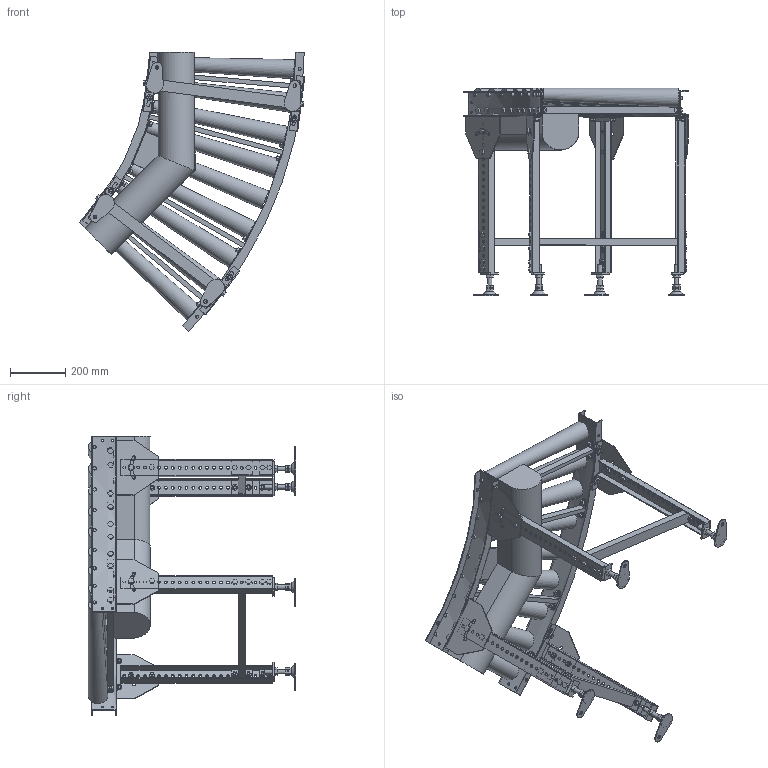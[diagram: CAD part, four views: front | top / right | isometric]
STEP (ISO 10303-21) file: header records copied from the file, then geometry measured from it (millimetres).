
FILE_DESCRIPTION( (''), '2;1');
FILE_NAME ('WEB-MCD-50-500-100-45°-C9.stp','2026-02-20T12:15:02',(''),(''),'spGate 20.6.2 (****-****-****-****)','','');
FILE_SCHEMA (('AUTOMOTIVE_DESIGN'));
Length unit declared in the file: millimetre
Products named in the file (31): WEB-MCD-50-500-100-45_-C9; TEMP_X_T-prt0; TEMP_X_T-prt1; TEMP_X_T-prt2; TEMP_X_T-prt3; TEMP_X_T-prt4; TEMP_X_T-prt5; TEMP_X_T-prt6; TEMP_X_T-prt7; TEMP_X_T-prt8; TEMP_X_T-prt9; TEMP_X_T-prt10; TEMP_X_T-prt11; TEMP_X_T-prt12; TEMP_X_T-prt13; TEMP_X_T-prt14; TEMP_X_T-prt15; TEMP_X_T-prt16; TEMP_X_T-prt17; TEMP_X_T-prt18; TEMP_X_T-prt19; TEMP_X_T-prt20; TEMP_X_T-prt21; TEMP_X_T-prt22; TEMP_X_T-prt23; TEMP_X_T-prt24; TEMP_X_T-prt25; TEMP_X_T-prt26; TEMP_X_T-prt27; TEMP_X_T-prt28; TEMP_X_T-prt29
Assembly tree (30 placements, depth 2):
  WEB-MCD-50-500-100-45_-C9
    TEMP_X_T-prt0
    TEMP_X_T-prt1
    TEMP_X_T-prt2
    TEMP_X_T-prt3
    TEMP_X_T-prt4
    TEMP_X_T-prt5
    TEMP_X_T-prt6
    TEMP_X_T-prt7
    TEMP_X_T-prt8
    TEMP_X_T-prt9
    TEMP_X_T-prt10
    TEMP_X_T-prt11
    TEMP_X_T-prt12
    TEMP_X_T-prt13
    TEMP_X_T-prt14
    TEMP_X_T-prt15
    TEMP_X_T-prt16
    TEMP_X_T-prt17
    TEMP_X_T-prt18
    TEMP_X_T-prt19
    TEMP_X_T-prt20
    TEMP_X_T-prt21
    TEMP_X_T-prt22
    TEMP_X_T-prt23
    TEMP_X_T-prt24
    TEMP_X_T-prt25
    TEMP_X_T-prt26
    TEMP_X_T-prt27
    TEMP_X_T-prt28
    TEMP_X_T-prt29
Bounding box: 817 x 750.06 x 1011.16 mm (x, y, z)
Volume: 28817822.3 mm3; surface area: 3027565.5 mm2
Topology: 30 solids, 50 shells, 2199 faces, 5308 edges, 3415 vertices
Faces by surface type: plane 1838, cylinder 348, bspline 13
Full cylindrical faces by diameter (mm): 8.5 x8, 10 x60, 10.5 x92, 11 x2, 12 x18, 13 x4, 14 x6, 16 x4, 18.4 x42, 18.5 x8, 21 x30
Entity records: 110915 total; most frequent: CARTESIAN_POINT 13904, DIRECTION 11035, ORIENTED_EDGE 10616, COLOUR_RGB 7537, PRESENTATION_STYLE_ASSIGNMENT 7537, STYLED_ITEM 7537, EDGE_CURVE 5308, DRAUGHTING_PRE_DEFINED_CURVE_FONT 5308
